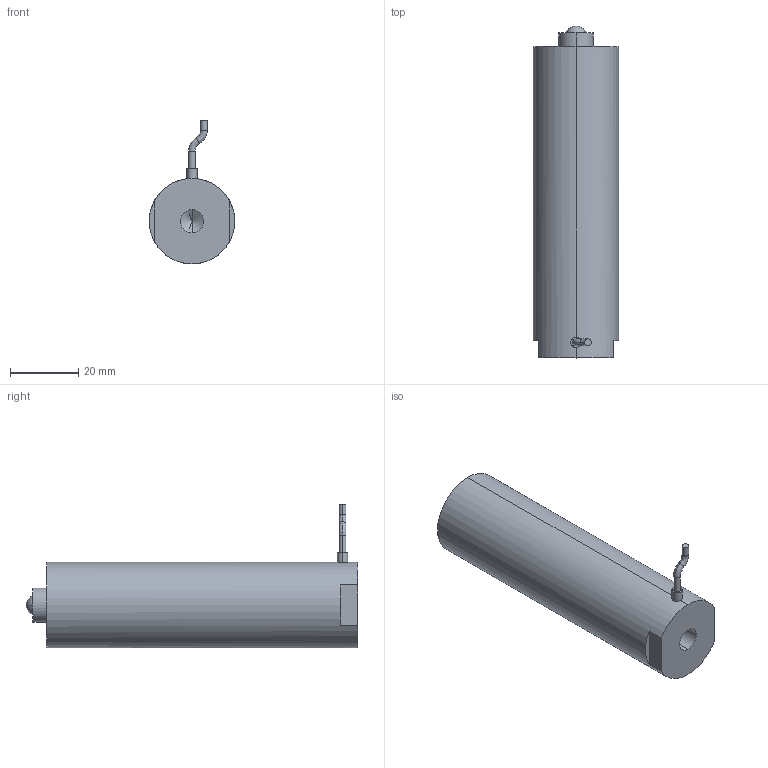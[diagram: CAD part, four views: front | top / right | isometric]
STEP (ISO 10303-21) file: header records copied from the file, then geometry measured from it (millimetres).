
FILE_DESCRIPTION (( 'STEP AP203' ), '1' );
FILE_NAME ('球头式80VS25.STEP', '2021-07-08T07:53:45', ( '微软用户' ), ( '微软公司' ), 'SwSTEP 2.0', 'SolidWorks 2016', '' );
FILE_SCHEMA (( 'CONFIG_CONTROL_DESIGN' ));
Length unit declared in the file: millimetre
Products named in the file (1): ⑩芛宒80VS25
Bounding box: 25 x 97 x 42.06 mm (x, y, z)
Volume: 44546.9 mm3; surface area: 8626.9 mm2
Topology: 1 solids, 1 shells, 938 faces, 2540 edges, 1688 vertices
Faces by surface type: bspline 523, plane 303, cylinder 104, torus 4, sphere 2, cone 2
Entity records: 44969 total; most frequent: CARTESIAN_POINT 26010, ORIENTED_EDGE 5068, EDGE_CURVE 2534, DIRECTION 1906, B_SPLINE_CURVE_WITH_KNOTS 1728, VERTEX_POINT 1686, EDGE_LOOP 1026, ADVANCED_FACE 938
